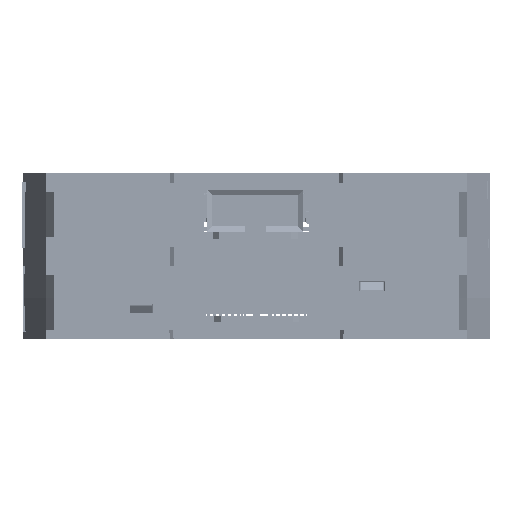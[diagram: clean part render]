
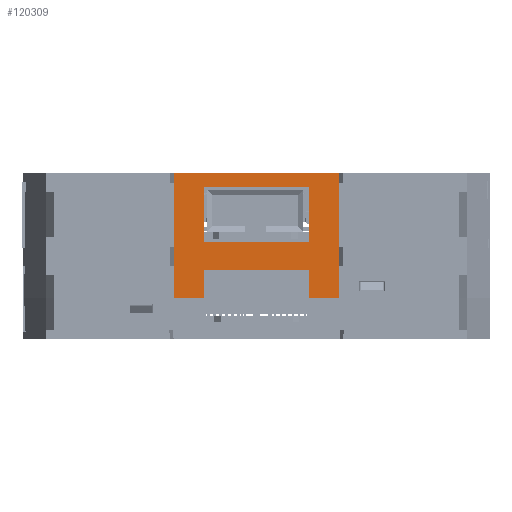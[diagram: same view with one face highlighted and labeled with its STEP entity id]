
A CAD part, front view. The second image highlights one B-rep face of the part: STEP entity #120309.
In plain terms, the highlighted planar face has unit normal (0, -1, 0).
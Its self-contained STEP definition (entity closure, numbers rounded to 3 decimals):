
#5046=FACE_BOUND('',#19603,.T.);
#12718=FACE_OUTER_BOUND('',#19602,.T.);
#19602=EDGE_LOOP('',(#101581,#101582,#101583,#101584,#101585,#101586,#101587,
#101588,#101589,#101590,#101591,#101592,#101593,#101594));
#19603=EDGE_LOOP('',(#101595,#101596,#101597,#101598));
#31566=LINE('',#202799,#45670);
#31702=LINE('',#203092,#45806);
#31741=LINE('',#203170,#45845);
#31742=LINE('',#203173,#45846);
#31743=LINE('',#203175,#45847);
#31744=LINE('',#203177,#45848);
#31745=LINE('',#203178,#45849);
#31746=LINE('',#203180,#45850);
#31747=LINE('',#203182,#45851);
#31748=LINE('',#203184,#45852);
#31749=LINE('',#203186,#45853);
#31750=LINE('',#203188,#45854);
#31751=LINE('',#203190,#45855);
#31752=LINE('',#203191,#45856);
#31753=LINE('',#203194,#45857);
#31754=LINE('',#203196,#45858);
#31755=LINE('',#203198,#45859);
#31756=LINE('',#203199,#45860);
#45670=VECTOR('',#153902,1.);
#45806=VECTOR('',#154094,1.);
#45845=VECTOR('',#154141,1.);
#45846=VECTOR('',#154144,1.);
#45847=VECTOR('',#154145,1.);
#45848=VECTOR('',#154146,1.);
#45849=VECTOR('',#154147,1.);
#45850=VECTOR('',#154148,1.);
#45851=VECTOR('',#154149,1.);
#45852=VECTOR('',#154150,1.);
#45853=VECTOR('',#154151,1.);
#45854=VECTOR('',#154152,1.);
#45855=VECTOR('',#154153,1.);
#45856=VECTOR('',#154154,1.);
#45857=VECTOR('',#154155,1.);
#45858=VECTOR('',#154156,1.);
#45859=VECTOR('',#154157,1.);
#45860=VECTOR('',#154158,1.);
#57525=VERTEX_POINT('',#202796);
#57526=VERTEX_POINT('',#202798);
#57654=VERTEX_POINT('',#203089);
#57655=VERTEX_POINT('',#203091);
#57690=VERTEX_POINT('',#203168);
#57691=VERTEX_POINT('',#203172);
#57692=VERTEX_POINT('',#203174);
#57693=VERTEX_POINT('',#203176);
#57694=VERTEX_POINT('',#203179);
#57695=VERTEX_POINT('',#203181);
#57696=VERTEX_POINT('',#203183);
#57697=VERTEX_POINT('',#203185);
#57698=VERTEX_POINT('',#203187);
#57699=VERTEX_POINT('',#203189);
#57700=VERTEX_POINT('',#203192);
#57701=VERTEX_POINT('',#203193);
#57702=VERTEX_POINT('',#203195);
#57703=VERTEX_POINT('',#203197);
#72676=EDGE_CURVE('',#57526,#57525,#31566,.T.);
#72822=EDGE_CURVE('',#57654,#57655,#31702,.T.);
#72863=EDGE_CURVE('',#57655,#57690,#31741,.T.);
#72864=EDGE_CURVE('',#57691,#57526,#31742,.T.);
#72865=EDGE_CURVE('',#57692,#57525,#31743,.T.);
#72866=EDGE_CURVE('',#57693,#57692,#31744,.T.);
#72867=EDGE_CURVE('',#57690,#57693,#31745,.T.);
#72868=EDGE_CURVE('',#57654,#57694,#31746,.T.);
#72869=EDGE_CURVE('',#57694,#57695,#31747,.T.);
#72870=EDGE_CURVE('',#57695,#57696,#31748,.T.);
#72871=EDGE_CURVE('',#57696,#57697,#31749,.T.);
#72872=EDGE_CURVE('',#57697,#57698,#31750,.T.);
#72873=EDGE_CURVE('',#57698,#57699,#31751,.T.);
#72874=EDGE_CURVE('',#57699,#57691,#31752,.T.);
#72875=EDGE_CURVE('',#57700,#57701,#31753,.T.);
#72876=EDGE_CURVE('',#57701,#57702,#31754,.T.);
#72877=EDGE_CURVE('',#57702,#57703,#31755,.T.);
#72878=EDGE_CURVE('',#57703,#57700,#31756,.T.);
#101581=ORIENTED_EDGE('',*,*,#72864,.T.);
#101582=ORIENTED_EDGE('',*,*,#72676,.T.);
#101583=ORIENTED_EDGE('',*,*,#72865,.F.);
#101584=ORIENTED_EDGE('',*,*,#72866,.F.);
#101585=ORIENTED_EDGE('',*,*,#72867,.F.);
#101586=ORIENTED_EDGE('',*,*,#72863,.F.);
#101587=ORIENTED_EDGE('',*,*,#72822,.F.);
#101588=ORIENTED_EDGE('',*,*,#72868,.T.);
#101589=ORIENTED_EDGE('',*,*,#72869,.T.);
#101590=ORIENTED_EDGE('',*,*,#72870,.T.);
#101591=ORIENTED_EDGE('',*,*,#72871,.T.);
#101592=ORIENTED_EDGE('',*,*,#72872,.T.);
#101593=ORIENTED_EDGE('',*,*,#72873,.T.);
#101594=ORIENTED_EDGE('',*,*,#72874,.T.);
#101595=ORIENTED_EDGE('',*,*,#72875,.T.);
#101596=ORIENTED_EDGE('',*,*,#72876,.T.);
#101597=ORIENTED_EDGE('',*,*,#72877,.T.);
#101598=ORIENTED_EDGE('',*,*,#72878,.T.);
#114475=PLANE('',#128632);
#120309=ADVANCED_FACE('',(#12718,#5046),#114475,.T.);
#128632=AXIS2_PLACEMENT_3D('',#203171,#154142,#154143);
#153902=DIRECTION('',(-1.,0.,0.));
#154094=DIRECTION('',(-1.,0.,0.));
#154141=DIRECTION('',(0.,0.,1.));
#154142=DIRECTION('center_axis',(0.,-1.,0.));
#154143=DIRECTION('ref_axis',(0.,0.,-1.));
#154144=DIRECTION('',(0.,0.,1.));
#154145=DIRECTION('',(0.,0.,1.));
#154146=DIRECTION('',(0.,0.,1.));
#154147=DIRECTION('',(0.,0.,1.));
#154148=DIRECTION('',(0.,0.,1.));
#154149=DIRECTION('',(0.,0.,1.));
#154150=DIRECTION('',(0.,0.,1.));
#154151=DIRECTION('',(0.,0.,1.));
#154152=DIRECTION('',(-1.,0.,0.));
#154153=DIRECTION('',(0.,0.,-1.));
#154154=DIRECTION('',(-1.,0.,0.));
#154155=DIRECTION('',(0.,0.,-1.));
#154156=DIRECTION('',(-1.,0.,0.));
#154157=DIRECTION('',(0.,0.,1.));
#154158=DIRECTION('',(1.,0.,0.));
#202796=CARTESIAN_POINT('',(3.4,-103.65,26.25));
#202798=CARTESIAN_POINT('',(9.9,-103.65,26.25));
#202799=CARTESIAN_POINT('',(9.9,-103.65,26.25));
#203089=CARTESIAN_POINT('',(38.4,-103.65,0.));
#203091=CARTESIAN_POINT('',(3.4,-103.65,0.));
#203092=CARTESIAN_POINT('',(38.4,-103.65,0.));
#203168=CARTESIAN_POINT('',(3.4,-103.65,2.));
#203170=CARTESIAN_POINT('',(3.4,-103.65,0.));
#203171=CARTESIAN_POINT('Origin',(38.4,-103.65,0.));
#203172=CARTESIAN_POINT('',(9.9,-103.65,20.5));
#203173=CARTESIAN_POINT('',(9.9,-103.65,20.5));
#203174=CARTESIAN_POINT('',(3.4,-103.65,19.5));
#203175=CARTESIAN_POINT('',(3.4,-103.65,19.5));
#203176=CARTESIAN_POINT('',(3.4,-103.65,15.5));
#203177=CARTESIAN_POINT('',(3.4,-103.65,15.5));
#203178=CARTESIAN_POINT('',(3.4,-103.65,2.));
#203179=CARTESIAN_POINT('',(38.4,-103.65,2.));
#203180=CARTESIAN_POINT('',(38.4,-103.65,0.));
#203181=CARTESIAN_POINT('',(38.4,-103.65,15.5));
#203182=CARTESIAN_POINT('',(38.4,-103.65,2.));
#203183=CARTESIAN_POINT('',(38.4,-103.65,19.5));
#203184=CARTESIAN_POINT('',(38.4,-103.65,15.5));
#203185=CARTESIAN_POINT('',(38.4,-103.65,26.25));
#203186=CARTESIAN_POINT('',(38.4,-103.65,19.5));
#203187=CARTESIAN_POINT('',(31.9,-103.65,26.25));
#203188=CARTESIAN_POINT('',(38.4,-103.65,26.25));
#203189=CARTESIAN_POINT('',(31.9,-103.65,20.5));
#203190=CARTESIAN_POINT('',(31.9,-103.65,26.25));
#203191=CARTESIAN_POINT('',(31.9,-103.65,20.5));
#203192=CARTESIAN_POINT('',(31.9,-103.65,14.5));
#203193=CARTESIAN_POINT('',(31.9,-103.65,3.));
#203194=CARTESIAN_POINT('',(31.9,-103.65,14.5));
#203195=CARTESIAN_POINT('',(9.9,-103.65,3.));
#203196=CARTESIAN_POINT('',(31.9,-103.65,3.));
#203197=CARTESIAN_POINT('',(9.9,-103.65,14.5));
#203198=CARTESIAN_POINT('',(9.9,-103.65,3.));
#203199=CARTESIAN_POINT('',(9.9,-103.65,14.5));
